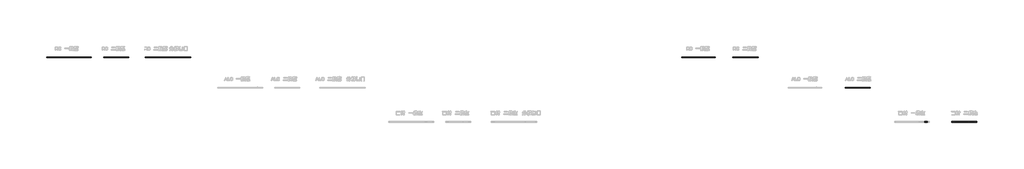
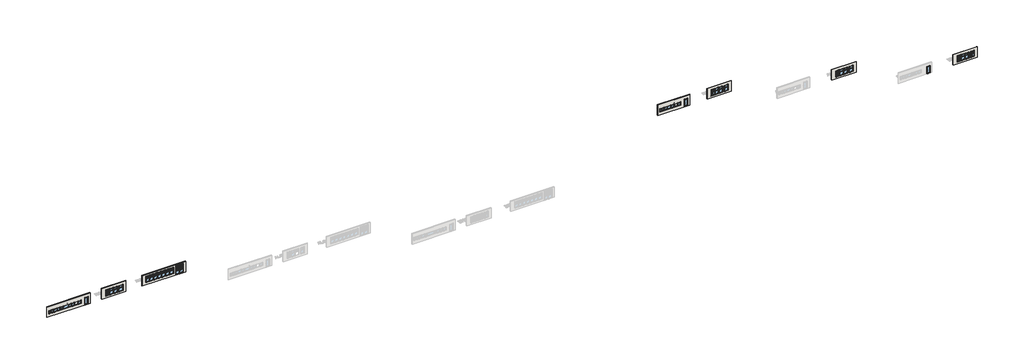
# One storey, part 2 of 9: 37 windows, 7 walls.
"""IFC4 building model written with IfcOpenShell, lengths in millimetres."""

from ifc_helpers import new_model, si_unit, origin, place, context, project, spatial, faceted_brep, transform, mapped, element, save
from components import window_5b862731, window_7b8d6bdb, window_a65863e0, window_94f88ecb, window_d8e5e20b, window_982928b0, window_b47a5142, window_3286e7ac, window_d3e49d5a, window_af76bd46, window_1546418c, window_f49ae977, window_b31afdd3, window_89d6bdb9, window_9f553484, window_d4c82e34, window_3b290d56, window_d672795f, window_f1f49c0d, window_07d2fa6b, window_97257845, window_000c6770, window_9ac953a6, window_cb9461ae, window_9ecc36ba, window_6179c8a8, window_815922b5, window_1165047f, window_eaa06fa6, fix_e6d95c7c, fix_dac33f9e, fix_fix_834ad85f, fix_fix_8fd30978, fix_fix_5153bf73, fix_fix_febf87ab, fix_fix_aadb638c

model = new_model("IFC4")

# Units and contexts
model_context = context("Model", 3, world=origin())
ifc_project = project(units=[si_unit("LENGTHUNIT", "METRE", prefix="MILLI")], contexts=[model_context])

# Site, building, storey
site = spatial("IfcSite", under=ifc_project)
building = spatial("IfcBuilding", under=site)
storey = spatial("IfcBuildingStorey", under=building, Name="レベル 1", Elevation=0.0)

# Walls
placement = place(None, origin())
element("IfcWall", 1, ObjectType="一般 - 200 mm", at=placement, inside=storey, context=model_context, shape_type="Brep", body=[
    faceted_brep([(-7090.5476315, 204.7315319, 0.0), (4709.4523685, 204.7315319, 0.0), (4709.4523685, 204.7315319, 3000.0), (-7090.5476315, 204.7315319, 3000.0), (2284.4523685, 204.7315319, 1725.0), (2284.4523685, 204.7315319, 875.0), (-6565.5476315, 204.7315319, 875.0), (-6565.5476315, 204.7315319, 1725.0), (3204.4523685, 204.7315319, 2125.0), (4154.4523685, 204.7315319, 2125.0), (4154.4523685, 204.7315319, 75.0), (3204.4523685, 204.7315319, 75.0), (4709.4523685, 404.7315319, 0.0), (-7090.5476315, 404.7315319, 0.0), (-7090.5476315, 404.7315319, 3000.0), (4709.4523685, 404.7315319, 3000.0), (2274.4523685, 404.7315319, 804.0), (2274.4523685, 404.7315319, 1720.0), (-6555.5476315, 404.7315319, 1720.0), (-6555.5476315, 404.7315319, 804.0), (3214.4523685, 404.7315319, 4.0), (4144.4523685, 404.7315319, 4.0), (4144.4523685, 404.7315319, 2120.0), (3214.4523685, 404.7315319, 2120.0), (2284.4523685, 259.7315319, 1725.0), (-6565.5476315, 259.7315319, 1725.0), (2284.4523685, 259.7315319, 875.0), (-6565.5476315, 259.7315319, 875.0), (2284.4523685, 359.7315319, 1755.0), (2284.4523685, 259.7315319, 1755.0), (-6565.5476315, 259.7315319, 1755.0), (-6565.5476315, 359.7315319, 1755.0), (2284.4523685, 259.7315319, 804.0), (2284.4523685, 359.7315319, 804.0), (2274.4523685, 359.7315319, 804.0), (-6555.5476315, 359.7315319, 804.0), (-6565.5476315, 359.7315319, 804.0), (-6565.5476315, 259.7315319, 804.0), (-6555.5476315, 359.7315319, 1720.0), (2274.4523685, 359.7315319, 1720.0), (3204.4523685, 259.7315319, 2125.0), (4154.4523685, 259.7315319, 2125.0), (4154.4523685, 259.7315319, 75.0), (3204.4523685, 259.7315319, 75.0), (3204.4523685, 259.7315319, 4.0), (3204.4523685, 359.7315319, 4.0), (3204.4523685, 359.7315319, 2155.0), (3204.4523685, 259.7315319, 2155.0), (4154.4523685, 259.7315319, 2155.0), (4154.4523685, 359.7315319, 2155.0), (4154.4523685, 359.7315319, 4.0), (4154.4523685, 259.7315319, 4.0), (4144.4523685, 359.7315319, 4.0), (3214.4523685, 359.7315319, 4.0), (3214.4523685, 359.7315319, 2120.0), (4144.4523685, 359.7315319, 2120.0)], [[[0, 1, 2, 3], [4, 5, 6, 7], [8, 9, 10, 11]], [[12, 13, 14, 15], [16, 17, 18, 19], [20, 21, 22, 23]], [[1, 0, 13, 12]], [[2, 1, 12, 15]], [[3, 2, 15, 14]], [[0, 3, 14, 13]], [[24, 4, 7, 25]], [[5, 26, 27, 6]], [[28, 29, 30, 31]], [[32, 33, 34, 16, 19, 35, 36, 37]], [[33, 28, 31, 36, 35, 38, 39, 34]], [[29, 24, 25, 30]], [[26, 32, 37, 27]], [[17, 39, 38, 18]], [[24, 29, 28, 33, 32, 26, 5, 4]], [[16, 34, 39, 17]], [[27, 37, 36, 31, 30, 25, 7, 6]], [[35, 19, 18, 38]], [[40, 41, 9, 8]], [[42, 43, 11, 10]], [[43, 44, 45, 46, 47, 40, 8, 11]], [[41, 48, 49, 50, 51, 42, 10, 9]], [[47, 46, 49, 48]], [[45, 44, 51, 50, 52, 21, 20, 53]], [[46, 45, 53, 54, 55, 52, 50, 49]], [[41, 40, 47, 48]], [[43, 42, 51, 44]], [[55, 54, 23, 22]], [[53, 20, 23, 54]], [[21, 52, 55, 22]]]),
])
element("IfcWall", 2, ObjectType="一般 - 200 mm", at=placement, inside=storey, context=model_context, shape_type="Brep", body=[
    faceted_brep([(7909.4523685, 204.7315319, 0.0), (14509.4523685, 204.7315319, 0.0), (14509.4523685, 204.7315319, 3000.0), (7909.4523685, 204.7315319, 3000.0), (12544.4523685, 204.7315319, 2325.0), (13794.4523685, 204.7315319, 2325.0), (13794.4523685, 204.7315319, 575.0), (12544.4523685, 204.7315319, 575.0), (12194.4523685, 204.7315319, 575.0), (8984.4523685, 204.7315319, 575.0), (8984.4523685, 204.7315319, 2325.0), (12194.4523685, 204.7315319, 2325.0), (14509.4523685, 404.7315319, 0.0), (7909.4523685, 404.7315319, 0.0), (7909.4523685, 404.7315319, 3000.0), (14509.4523685, 404.7315319, 3000.0), (12554.4523685, 404.7315319, 504.0), (13784.4523685, 404.7315319, 504.0), (13784.4523685, 404.7315319, 2320.0), (12554.4523685, 404.7315319, 2320.0), (8994.4523685, 404.7315319, 504.0), (12184.4523685, 404.7315319, 504.0), (12184.4523685, 404.7315319, 2320.0), (8994.4523685, 404.7315319, 2320.0), (8984.4523685, 259.7315319, 2325.0), (12194.4523685, 259.7315319, 2325.0), (8984.4523685, 259.7315319, 575.0), (12194.4523685, 259.7315319, 575.0), (8984.4523685, 259.7315319, 504.0), (8984.4523685, 359.7315319, 504.0), (8984.4523685, 359.7315319, 2355.0), (8984.4523685, 259.7315319, 2355.0), (12194.4523685, 359.7315319, 2355.0), (12194.4523685, 259.7315319, 2355.0), (12194.4523685, 259.7315319, 504.0), (12194.4523685, 359.7315319, 504.0), (12184.4523685, 359.7315319, 504.0), (8994.4523685, 359.7315319, 504.0), (8994.4523685, 359.7315319, 2320.0), (12184.4523685, 359.7315319, 2320.0), (13794.4523685, 259.7315319, 2325.0), (12544.4523685, 259.7315319, 2325.0), (12544.4523685, 259.7315319, 575.0), (13794.4523685, 259.7315319, 575.0), (12544.4523685, 259.7315319, 504.0), (12544.4523685, 359.7315319, 504.0), (12544.4523685, 359.7315319, 2355.0), (12544.4523685, 259.7315319, 2355.0), (13794.4523685, 259.7315319, 2355.0), (13794.4523685, 359.7315319, 2355.0), (13794.4523685, 359.7315319, 504.0), (13794.4523685, 259.7315319, 504.0), (13784.4523685, 359.7315319, 504.0), (12554.4523685, 359.7315319, 504.0), (12554.4523685, 359.7315319, 2320.0), (13784.4523685, 359.7315319, 2320.0)], [[[0, 1, 2, 3], [4, 5, 6, 7], [8, 9, 10, 11]], [[12, 13, 14, 15], [16, 17, 18, 19], [20, 21, 22, 23]], [[1, 0, 13, 12]], [[2, 1, 12, 15]], [[3, 2, 15, 14]], [[0, 3, 14, 13]], [[10, 24, 25, 11]], [[26, 9, 8, 27]], [[24, 10, 9, 26, 28, 29, 30, 31]], [[31, 30, 32, 33]], [[29, 28, 34, 35, 36, 21, 20, 37]], [[34, 28, 26, 27]], [[25, 24, 31, 33]], [[32, 30, 29, 37, 38, 39, 36, 35]], [[37, 20, 23, 38]], [[39, 38, 23, 22]], [[25, 33, 32, 35, 34, 27, 8, 11]], [[39, 22, 21, 36]], [[40, 5, 4, 41]], [[42, 7, 6, 43]], [[41, 4, 7, 42, 44, 45, 46, 47]], [[5, 40, 48, 49, 50, 51, 43, 6]], [[49, 48, 47, 46]], [[45, 44, 51, 50, 52, 17, 16, 53]], [[47, 48, 40, 41]], [[51, 44, 42, 43]], [[49, 46, 45, 53, 54, 55, 52, 50]], [[18, 55, 54, 19]], [[19, 54, 53, 16]], [[55, 18, 17, 52]]]),
])
element("IfcWall", 3, ObjectType="一般 - 200 mm", at=placement, inside=storey, context=model_context, shape_type="Brep", body=[
    faceted_brep([(18909.4523685, 204.7315319, 0.0), (30809.4523685, 204.7315319, 0.0), (30809.4523685, 204.7315319, 3000.0), (18909.4523685, 204.7315319, 3000.0), (30234.4523685, 204.7315319, 2625.0), (30234.4523685, 204.7315319, 75.0), (28104.4523685, 204.7315319, 75.0), (28104.4523685, 204.7315319, 2625.0), (27514.4523685, 204.7315319, 665.0), (19984.4523685, 204.7315319, 665.0), (19984.4523685, 204.7315319, 2425.0), (27514.4523685, 204.7315319, 2425.0), (30809.4523685, 404.7315319, 0.0), (18909.4523685, 404.7315319, 0.0), (18909.4523685, 404.7315319, 3000.0), (30809.4523685, 404.7315319, 3000.0), (30224.4523685, 404.7315319, 4.0), (30224.4523685, 404.7315319, 2620.0), (28114.4523685, 404.7315319, 2620.0), (28114.4523685, 404.7315319, 4.0), (19994.4523685, 404.7315319, 594.0), (27504.4523685, 404.7315319, 594.0), (27504.4523685, 404.7315319, 2420.0), (19994.4523685, 404.7315319, 2420.0), (19984.4523685, 259.7315319, 2425.0), (27514.4523685, 259.7315319, 2425.0), (19984.4523685, 259.7315319, 665.0), (27514.4523685, 259.7315319, 665.0), (19984.4523685, 259.7315319, 594.0), (19984.4523685, 359.7315319, 594.0), (19984.4523685, 359.7315319, 2455.0), (19984.4523685, 259.7315319, 2455.0), (27514.4523685, 359.7315319, 2455.0), (27514.4523685, 259.7315319, 2455.0), (27514.4523685, 259.7315319, 594.0), (27514.4523685, 359.7315319, 594.0), (27504.4523685, 359.7315319, 594.0), (19994.4523685, 359.7315319, 594.0), (19994.4523685, 359.7315319, 2420.0), (27504.4523685, 359.7315319, 2420.0), (30234.4523685, 259.7315319, 2625.0), (28104.4523685, 259.7315319, 2625.0), (30234.4523685, 259.7315319, 75.0), (28104.4523685, 259.7315319, 75.0), (30234.4523685, 259.7315319, 2655.0), (30234.4523685, 359.7315319, 2655.0), (30234.4523685, 359.7315319, 4.0), (30234.4523685, 259.7315319, 4.0), (28104.4523685, 259.7315319, 2655.0), (28104.4523685, 359.7315319, 2655.0), (30224.4523685, 359.7315319, 4.0), (28114.4523685, 359.7315319, 4.0), (28104.4523685, 359.7315319, 4.0), (28104.4523685, 259.7315319, 4.0), (28114.4523685, 359.7315319, 2620.0), (30224.4523685, 359.7315319, 2620.0)], [[[0, 1, 2, 3], [4, 5, 6, 7], [8, 9, 10, 11]], [[12, 13, 14, 15], [16, 17, 18, 19], [20, 21, 22, 23]], [[1, 0, 13, 12]], [[2, 1, 12, 15]], [[3, 2, 15, 14]], [[0, 3, 14, 13]], [[10, 24, 25, 11]], [[26, 9, 8, 27]], [[24, 10, 9, 26, 28, 29, 30, 31]], [[31, 30, 32, 33]], [[29, 28, 34, 35, 36, 21, 20, 37]], [[34, 28, 26, 27]], [[25, 24, 31, 33]], [[32, 30, 29, 37, 38, 39, 36, 35]], [[37, 20, 23, 38]], [[39, 38, 23, 22]], [[40, 4, 7, 41]], [[5, 42, 43, 6]], [[40, 44, 45, 46, 47, 42, 5, 4]], [[45, 44, 48, 49]], [[47, 46, 50, 16, 19, 51, 52, 53]], [[46, 45, 49, 52, 51, 54, 55, 50]], [[44, 40, 41, 48]], [[42, 47, 53, 43]], [[17, 55, 54, 18]], [[16, 50, 55, 17]], [[43, 53, 52, 49, 48, 41, 7, 6]], [[51, 19, 18, 54]], [[25, 33, 32, 35, 34, 27, 8, 11]], [[21, 36, 39, 22]]]),
])
element("IfcWall", 4, ObjectType="一般 - 200 mm", at=placement, inside=storey, context=model_context, shape_type="Brep", body=[
    faceted_brep([(159909.4523685, 204.7315319, 0.0), (168709.4523685, 204.7315319, 0.0), (168709.4523685, 204.7315319, 3000.0), (159909.4523685, 204.7315319, 3000.0), (160434.4523685, 204.7315319, 875.0), (160434.4523685, 204.7315319, 1725.0), (166204.4523685, 204.7315319, 1725.0), (166204.4523685, 204.7315319, 875.0), (167204.4523685, 204.7315319, 2125.0), (168154.4523685, 204.7315319, 2125.0), (168154.4523685, 204.7315319, 75.0), (167204.4523685, 204.7315319, 75.0), (168709.4523685, 404.7315319, 0.0), (159909.4523685, 404.7315319, 0.0), (159909.4523685, 404.7315319, 3000.0), (168709.4523685, 404.7315319, 3000.0), (160444.4523685, 404.7315319, 1720.0), (160444.4523685, 404.7315319, 804.0), (166194.4523685, 404.7315319, 804.0), (166194.4523685, 404.7315319, 1720.0), (167214.4523685, 404.7315319, 4.0), (168144.4523685, 404.7315319, 4.0), (168144.4523685, 404.7315319, 2120.0), (167214.4523685, 404.7315319, 2120.0), (160434.4523685, 259.7315319, 1725.0), (166204.4523685, 259.7315319, 1725.0), (160434.4523685, 259.7315319, 875.0), (166204.4523685, 259.7315319, 875.0), (160434.4523685, 259.7315319, 1755.0), (160434.4523685, 259.7315319, 804.0), (160434.4523685, 359.7315319, 804.0), (160434.4523685, 359.7315319, 1755.0), (166204.4523685, 359.7315319, 1755.0), (166204.4523685, 259.7315319, 1755.0), (166204.4523685, 259.7315319, 804.0), (166204.4523685, 359.7315319, 804.0), (166194.4523685, 359.7315319, 804.0), (160444.4523685, 359.7315319, 804.0), (160444.4523685, 359.7315319, 1720.0), (166194.4523685, 359.7315319, 1720.0), (167204.4523685, 259.7315319, 2125.0), (168154.4523685, 259.7315319, 2125.0), (168154.4523685, 259.7315319, 75.0), (167204.4523685, 259.7315319, 75.0), (167204.4523685, 259.7315319, 4.0), (167204.4523685, 359.7315319, 4.0), (167204.4523685, 359.7315319, 2155.0), (167204.4523685, 259.7315319, 2155.0), (168154.4523685, 259.7315319, 2155.0), (168154.4523685, 359.7315319, 2155.0), (168154.4523685, 359.7315319, 4.0), (168154.4523685, 259.7315319, 4.0), (168144.4523685, 359.7315319, 4.0), (167214.4523685, 359.7315319, 4.0), (167214.4523685, 359.7315319, 2120.0), (168144.4523685, 359.7315319, 2120.0)], [[[0, 1, 2, 3], [4, 5, 6, 7], [8, 9, 10, 11]], [[12, 13, 14, 15], [16, 17, 18, 19], [20, 21, 22, 23]], [[1, 0, 13, 12]], [[2, 1, 12, 15]], [[3, 2, 15, 14]], [[0, 3, 14, 13]], [[5, 24, 25, 6]], [[26, 4, 7, 27]], [[28, 24, 5, 4, 26, 29, 30, 31]], [[28, 31, 32, 33]], [[30, 29, 34, 35, 36, 18, 17, 37]], [[37, 38, 39, 36, 35, 32, 31, 30]], [[24, 28, 33, 25]], [[29, 26, 27, 34]], [[38, 16, 19, 39]], [[38, 37, 17, 16]], [[25, 33, 32, 35, 34, 27, 7, 6]], [[39, 19, 18, 36]], [[40, 41, 9, 8]], [[42, 43, 11, 10]], [[43, 44, 45, 46, 47, 40, 8, 11]], [[41, 48, 49, 50, 51, 42, 10, 9]], [[47, 46, 49, 48]], [[45, 44, 51, 50, 52, 21, 20, 53]], [[46, 45, 53, 54, 55, 52, 50, 49]], [[41, 40, 47, 48]], [[43, 42, 51, 44]], [[55, 54, 23, 22]], [[53, 20, 23, 54]], [[21, 52, 55, 22]]]),
])
element("IfcWall", 5, ObjectType="一般 - 200 mm", at=placement, inside=storey, context=model_context, shape_type="Brep", body=[
    faceted_brep([(173409.4523685, 204.7315319, 0.0), (180009.4523685, 204.7315319, 0.0), (180009.4523685, 204.7315319, 3000.0), (173409.4523685, 204.7315319, 3000.0), (178144.4523685, 204.7315319, 2325.0), (179194.4523685, 204.7315319, 2325.0), (179194.4523685, 204.7315319, 575.0), (178144.4523685, 204.7315319, 575.0), (177694.4523685, 204.7315319, 575.0), (174484.4523685, 204.7315319, 575.0), (174484.4523685, 204.7315319, 2325.0), (177694.4523685, 204.7315319, 2325.0), (180009.4523685, 404.7315319, 0.0), (173409.4523685, 404.7315319, 0.0), (173409.4523685, 404.7315319, 3000.0), (180009.4523685, 404.7315319, 3000.0), (178154.4523685, 404.7315319, 504.0), (179184.4523685, 404.7315319, 504.0), (179184.4523685, 404.7315319, 2320.0), (178154.4523685, 404.7315319, 2320.0), (174494.4523685, 404.7315319, 504.0), (177684.4523685, 404.7315319, 504.0), (177684.4523685, 404.7315319, 2320.0), (174494.4523685, 404.7315319, 2320.0), (179194.4523685, 259.7315319, 2325.0), (178144.4523685, 259.7315319, 2325.0), (178144.4523685, 259.7315319, 575.0), (179194.4523685, 259.7315319, 575.0), (178144.4523685, 259.7315319, 504.0), (178144.4523685, 359.7315319, 504.0), (178144.4523685, 359.7315319, 2355.0), (178144.4523685, 259.7315319, 2355.0), (179194.4523685, 259.7315319, 2355.0), (179194.4523685, 359.7315319, 2355.0), (179194.4523685, 359.7315319, 504.0), (179194.4523685, 259.7315319, 504.0), (179184.4523685, 359.7315319, 504.0), (178154.4523685, 359.7315319, 504.0), (178154.4523685, 359.7315319, 2320.0), (179184.4523685, 359.7315319, 2320.0), (174484.4523685, 259.7315319, 2325.0), (177694.4523685, 259.7315319, 2325.0), (174484.4523685, 259.7315319, 575.0), (177694.4523685, 259.7315319, 575.0), (174484.4523685, 259.7315319, 504.0), (174484.4523685, 359.7315319, 504.0), (174484.4523685, 359.7315319, 2355.0), (174484.4523685, 259.7315319, 2355.0), (177694.4523685, 359.7315319, 2355.0), (177694.4523685, 259.7315319, 2355.0), (177694.4523685, 259.7315319, 504.0), (177694.4523685, 359.7315319, 504.0), (177684.4523685, 359.7315319, 504.0), (174494.4523685, 359.7315319, 504.0), (174494.4523685, 359.7315319, 2320.0), (177684.4523685, 359.7315319, 2320.0)], [[[0, 1, 2, 3], [4, 5, 6, 7], [8, 9, 10, 11]], [[12, 13, 14, 15], [16, 17, 18, 19], [20, 21, 22, 23]], [[1, 0, 13, 12]], [[2, 1, 12, 15]], [[3, 2, 15, 14]], [[0, 3, 14, 13]], [[24, 5, 4, 25]], [[26, 7, 6, 27]], [[25, 4, 7, 26, 28, 29, 30, 31]], [[5, 24, 32, 33, 34, 35, 27, 6]], [[33, 32, 31, 30]], [[29, 28, 35, 34, 36, 17, 16, 37]], [[31, 32, 24, 25]], [[35, 28, 26, 27]], [[33, 30, 29, 37, 38, 39, 36, 34]], [[18, 39, 38, 19]], [[19, 38, 37, 16]], [[39, 18, 17, 36]], [[10, 40, 41, 11]], [[42, 9, 8, 43]], [[42, 44, 45, 46, 47, 40, 10, 9]], [[47, 46, 48, 49]], [[45, 44, 50, 51, 52, 21, 20, 53]], [[48, 46, 45, 53, 54, 55, 52, 51]], [[50, 44, 42, 43]], [[41, 40, 47, 49]], [[55, 54, 23, 22]], [[53, 20, 23, 54]], [[41, 49, 48, 51, 50, 43, 8, 11]], [[55, 22, 21, 52]]]),
])
element("IfcWall", 6, ObjectType="一般 - 200 mm", at=placement, inside=storey, context=model_context, shape_type="Brep", body=[
    faceted_brep([(202909.4523685, -7795.2684681, 0.0), (209509.4523685, -7795.2684681, 0.0), (209509.4523685, -7795.2684681, 3000.0), (202909.4523685, -7795.2684681, 3000.0), (207644.4523685, -7795.2684681, 2325.0), (208694.4523685, -7795.2684681, 2325.0), (208694.4523685, -7795.2684681, 575.0), (207644.4523685, -7795.2684681, 575.0), (207194.4523685, -7795.2684681, 575.0), (203984.4523685, -7795.2684681, 575.0), (203984.4523685, -7795.2684681, 2325.0), (207194.4523685, -7795.2684681, 2325.0), (209509.4523685, -7595.2684681, 0.0), (202909.4523685, -7595.2684681, 0.0), (202909.4523685, -7595.2684681, 3000.0), (209509.4523685, -7595.2684681, 3000.0), (208719.4523685, -7595.2684681, 2360.0), (207619.4523685, -7595.2684681, 2360.0), (207619.4523685, -7595.2684681, 520.0), (208719.4523685, -7595.2684681, 520.0), (207219.4523685, -7595.2684681, 2360.0), (203959.4523685, -7595.2684681, 2360.0), (203959.4523685, -7595.2684681, 520.0), (207219.4523685, -7595.2684681, 520.0), (208694.4523685, -7705.2684681, 2325.0), (207644.4523685, -7705.2684681, 2325.0), (207644.4523685, -7705.2684681, 575.0), (208694.4523685, -7705.2684681, 575.0), (208719.4523685, -7705.2684681, 2360.0), (207619.4523685, -7705.2684681, 2360.0), (207619.4523685, -7705.2684681, 520.0), (208719.4523685, -7705.2684681, 520.0), (203984.4523685, -7705.2684681, 2325.0), (207194.4523685, -7705.2684681, 2325.0), (203984.4523685, -7705.2684681, 575.0), (207194.4523685, -7705.2684681, 575.0), (203959.4523685, -7705.2684681, 2360.0), (207219.4523685, -7705.2684681, 2360.0), (203959.4523685, -7705.2684681, 520.0), (207219.4523685, -7705.2684681, 520.0)], [[[0, 1, 2, 3], [4, 5, 6, 7], [8, 9, 10, 11]], [[12, 13, 14, 15], [16, 17, 18, 19], [20, 21, 22, 23]], [[1, 0, 13, 12]], [[2, 1, 12, 15]], [[3, 2, 15, 14]], [[0, 3, 14, 13]], [[24, 5, 4, 25]], [[26, 7, 6, 27]], [[25, 4, 7, 26]], [[5, 24, 27, 6]], [[16, 28, 29, 17]], [[18, 30, 31, 19]], [[29, 28, 31, 30], [24, 25, 26, 27]], [[17, 29, 30, 18]], [[28, 16, 19, 31]], [[10, 32, 33, 11]], [[34, 9, 8, 35]], [[34, 32, 10, 9]], [[36, 21, 20, 37]], [[22, 38, 39, 23]], [[36, 37, 39, 38], [33, 32, 34, 35]], [[21, 36, 38, 22]], [[33, 35, 8, 11]], [[37, 20, 23, 39]]]),
])
element("IfcWall", 7, ObjectType="一般 - 200 mm", at=placement, inside=storey, context=model_context, shape_type="Brep", body=[
    faceted_brep([(230909.4523685, -16795.2684681, 0.0), (237509.4523685, -16795.2684681, 0.0), (237509.4523685, -16795.2684681, 3000.0), (230909.4523685, -16795.2684681, 3000.0), (235644.4523685, -16795.2684681, 2325.0), (236694.4523685, -16795.2684681, 2325.0), (236694.4523685, -16795.2684681, 575.0), (235644.4523685, -16795.2684681, 575.0), (235194.4523685, -16795.2684681, 575.0), (231984.4523685, -16795.2684681, 575.0), (231984.4523685, -16795.2684681, 2325.0), (235194.4523685, -16795.2684681, 2325.0), (237509.4523685, -16595.2684681, 0.0), (230909.4523685, -16595.2684681, 0.0), (230909.4523685, -16595.2684681, 3000.0), (237509.4523685, -16595.2684681, 3000.0), (235219.4523685, -16595.2684681, 2355.0), (231959.4523685, -16595.2684681, 2355.0), (231959.4523685, -16595.2684681, 520.0), (235219.4523685, -16595.2684681, 520.0), (236719.4523685, -16595.2684681, 2355.0), (235619.4523685, -16595.2684681, 2355.0), (235619.4523685, -16595.2684681, 520.0), (236719.4523685, -16595.2684681, 520.0), (231984.4523685, -16685.2684681, 2325.0), (235194.4523685, -16685.2684681, 2325.0), (231984.4523685, -16685.2684681, 575.0), (235194.4523685, -16685.2684681, 575.0), (231959.4523685, -16685.2684681, 2355.0), (235219.4523685, -16685.2684681, 2355.0), (231959.4523685, -16685.2684681, 520.0), (235219.4523685, -16685.2684681, 520.0), (236694.4523685, -16685.2684681, 2325.0), (235644.4523685, -16685.2684681, 2325.0), (235644.4523685, -16685.2684681, 575.0), (236694.4523685, -16685.2684681, 575.0), (236719.4523685, -16685.2684681, 2355.0), (235619.4523685, -16685.2684681, 2355.0), (235619.4523685, -16685.2684681, 520.0), (236719.4523685, -16685.2684681, 520.0)], [[[0, 1, 2, 3], [4, 5, 6, 7], [8, 9, 10, 11]], [[12, 13, 14, 15], [16, 17, 18, 19], [20, 21, 22, 23]], [[1, 0, 13, 12]], [[2, 1, 12, 15]], [[3, 2, 15, 14]], [[0, 3, 14, 13]], [[10, 24, 25, 11]], [[26, 9, 8, 27]], [[24, 10, 9, 26]], [[28, 17, 16, 29]], [[18, 30, 31, 19]], [[28, 29, 31, 30], [26, 27, 25, 24]], [[32, 5, 4, 33]], [[34, 7, 6, 35]], [[33, 4, 7, 34]], [[5, 32, 35, 6]], [[20, 36, 37, 21]], [[22, 38, 39, 23]], [[37, 36, 39, 38], [32, 33, 34, 35]], [[30, 18, 17, 28]], [[21, 37, 38, 22]], [[36, 20, 23, 39]], [[25, 27, 8, 11]], [[29, 16, 19, 31]]]),
])

# Windows
window_shape = window_5b862731(model_context)
element("IfcWindow", 8, ObjectType="FNSⅡ100R_非防火_RC枠_単窓 : 隠蔽突出排煙", at=placement, inside=storey, context=model_context, shape_type="MappedRepresentation", body=[
    mapped(window_shape, transform((1859.4523685, 304.7315319, 0.0), x_axis=(1.0, 0.0, 0.0), y_axis=(0.0, 1.0, 0.0), z_axis=(0.0, 0.0, 1.0))),
])
window_2_shape = window_7b8d6bdb(model_context)
element("IfcWindow", 9, ObjectType="FNSⅡ100R_非防火_RC枠_単窓 : 引違", at=placement, inside=storey, context=model_context, shape_type="MappedRepresentation", body=[
    mapped(window_2_shape, transform((-5940.5476315, 304.7315319, 0.0), x_axis=(1.0, 0.0, 0.0), y_axis=(0.0, 1.0, 0.0), z_axis=(0.0, 0.0, 1.0))),
])
window_3_shape = window_a65863e0(model_context)
element("IfcWindow", 10, ObjectType="FNSⅡ100R_非防火_RC枠_単窓 : 両袖片引", at=placement, inside=storey, context=model_context, shape_type="MappedRepresentation", body=[
    mapped(window_3_shape, transform((-1880.5476315, 304.7315319, 0.0), x_axis=(1.0, 0.0, 0.0), y_axis=(0.0, 1.0, 0.0), z_axis=(0.0, 0.0, 1.0))),
])
window_4_shape = window_94f88ecb(model_context)
element("IfcWindow", 11, ObjectType="FNSⅡ100R_非防火_RC枠_単窓 : 外動片引", at=placement, inside=storey, context=model_context, shape_type="MappedRepresentation", body=[
    mapped(window_4_shape, transform((-4360.5476315, 304.7315319, 0.0), x_axis=(1.0, 0.0, 0.0), y_axis=(0.0, 1.0, 0.0), z_axis=(0.0, 0.0, 1.0))),
])
window_5_shape = window_d8e5e20b(model_context)
element("IfcWindow", 12, ObjectType="FNSⅡ100R_非防火_RC枠_単窓 : 片開き框ドア", at=placement, inside=storey, context=model_context, shape_type="MappedRepresentation", body=[
    mapped(window_5_shape, transform((3679.4523685, 304.7315319, -800.0), x_axis=(1.0, 0.0, 0.0), y_axis=(0.0, 1.0, 0.0), z_axis=(0.0, 0.0, 1.0))),
])
window_6_shape = window_982928b0(model_context)
element("IfcWindow", 13, ObjectType="FNSⅡ100R_非防火_RC枠_段窓 : 引違/引違", at=placement, inside=storey, context=model_context, shape_type="MappedRepresentation", body=[
    mapped(window_6_shape, transform((9509.4523685, 304.7315319, -300.0), x_axis=(1.0, 0.0, 0.0), y_axis=(0.0, 1.0, 0.0), z_axis=(0.0, 0.0, 1.0))),
])
window_7_shape = window_b47a5142(model_context)
element("IfcWindow", 14, ObjectType="FNSⅡ100R_非防火_RC枠_段窓 : たてすべりだし/FIX", at=placement, inside=storey, context=model_context, shape_type="MappedRepresentation", body=[
    mapped(window_7_shape, transform((11669.4523685, 304.7315319, -300.0), x_axis=(1.0, 0.0, 0.0), y_axis=(0.0, 1.0, 0.0), z_axis=(0.0, 0.0, 1.0))),
])
window_8_shape = window_3286e7ac(model_context)
element("IfcWindow", 15, ObjectType="FNSⅡ100R_非防火_RC枠_段窓 : FIX/FIX_単", at=placement, inside=storey, context=model_context, shape_type="MappedRepresentation", body=[
    mapped(window_8_shape, transform((13169.4523685, 304.7315319, -300.0), x_axis=(1.0, 0.0, 0.0), y_axis=(0.0, 1.0, 0.0), z_axis=(0.0, 0.0, 1.0))),
])
window_9_shape = window_d3e49d5a(model_context)
element("IfcWindow", 16, ObjectType="FNSⅡ100R_非防火_RC枠_段窓_分解無目 : 引違/引違", at=placement, inside=storey, context=model_context, shape_type="MappedRepresentation", body=[
    mapped(window_9_shape, transform((20509.4523685, 304.7315319, -210.0), x_axis=(1.0, 0.0, 0.0), y_axis=(0.0, 1.0, 0.0), z_axis=(0.0, 0.0, 1.0))),
])
window_10_shape = window_af76bd46(model_context)
element("IfcWindow", 17, ObjectType="FNSⅡ100R_非防火_RC枠_段窓_分解無目 : 隠蔽突出排煙/框ドア", at=placement, inside=storey, context=model_context, shape_type="MappedRepresentation", body=[
    mapped(window_10_shape, transform((29709.4523685, 304.7315319, -800.0), x_axis=(1.0, 0.0, 0.0), y_axis=(0.0, 1.0, 0.0), z_axis=(0.0, 0.0, 1.0))),
])
window_11_shape = window_1546418c(model_context)
element("IfcWindow", 18, ObjectType="FNSⅡ100R_非防火_RC枠_段窓_分解無目 : FIX/框ドア", at=placement, inside=storey, context=model_context, shape_type="MappedRepresentation", body=[
    mapped(window_11_shape, transform((28629.4523685, 304.7315319, -800.0), x_axis=(1.0, 0.0, 0.0), y_axis=(0.0, 1.0, 0.0), z_axis=(0.0, 0.0, 1.0))),
])
window_12_shape = window_f49ae977(model_context)
element("IfcWindow", 19, ObjectType="FNSⅡ100R_非防火_RC枠_段窓_分解無目 : たてすべりだし/FIX", at=placement, inside=storey, context=model_context, shape_type="MappedRepresentation", body=[
    mapped(window_12_shape, transform((25909.4523685, 304.7315319, -210.0), x_axis=(1.0, 0.0, 0.0), y_axis=(0.0, 1.0, 0.0), z_axis=(0.0, 0.0, 1.0))),
])
window_13_shape = window_b31afdd3(model_context)
element("IfcWindow", 20, ObjectType="FNSⅡ100R_非防火_RC枠_段窓_分解無目 : 隠蔽突出排煙/FIX", at=placement, inside=storey, context=model_context, shape_type="MappedRepresentation", body=[
    mapped(window_13_shape, transform((26989.4523685, 304.7315319, -210.0), x_axis=(1.0, 0.0, 0.0), y_axis=(0.0, 1.0, 0.0), z_axis=(0.0, 0.0, 1.0))),
])
window_14_shape = window_89d6bdb9(model_context)
element("IfcWindow", 21, ObjectType="FNSⅡ100R_非防火_RC枠_段窓_分解無目 : 引違/FIX", at=placement, inside=storey, context=model_context, shape_type="MappedRepresentation", body=[
    mapped(window_14_shape, transform((23749.4523685, 304.7315319, -210.0), x_axis=(1.0, 0.0, 0.0), y_axis=(0.0, 1.0, 0.0), z_axis=(0.0, 0.0, 1.0))),
])
window_15_shape = window_9f553484(model_context)
element("IfcWindow", 22, ObjectType="FNSⅡ100R_非防火_RC枠_段窓_分解無目 : 隠蔽式突出排煙/引違", at=placement, inside=storey, context=model_context, shape_type="MappedRepresentation", body=[
    mapped(window_15_shape, transform((22669.4523685, 304.7315319, -210.0), x_axis=(1.0, 0.0, 0.0), y_axis=(0.0, 1.0, 0.0), z_axis=(0.0, 0.0, 1.0))),
])
window_16_shape = window_d4c82e34(model_context)
element("IfcWindow", 23, ObjectType="FNSⅡ100R_非防火_RC枠_段窓_分解無目 : FIX/引違", at=placement, inside=storey, context=model_context, shape_type="MappedRepresentation", body=[
    mapped(window_16_shape, transform((21589.4523685, 304.7315319, -210.0), x_axis=(1.0, 0.0, 0.0), y_axis=(0.0, 1.0, 0.0), z_axis=(0.0, 0.0, 1.0))),
])
window_17_shape = window_3b290d56(model_context)
element("IfcWindow", 24, ObjectType="FNSⅡ100R_非防火_面付枠_段窓 : FIX/FIX 単", at=placement, inside=storey, context=model_context, shape_type="MappedRepresentation", body=[
    mapped(window_17_shape, transform((236169.4523685, -16695.2684681, -300.0), x_axis=(1.0, 0.0, 0.0), y_axis=(0.0, 1.0, 0.0), z_axis=(0.0, 0.0, 1.0))),
])
window_18_shape = window_d672795f(model_context)
element("IfcWindow", 25, ObjectType="FNSⅡ100R_個別防火_面付枠_段窓 : 引違/引違", at=placement, inside=storey, context=model_context, shape_type="MappedRepresentation", body=[
    mapped(window_18_shape, transform((232509.4523685, -16695.2684681, -300.0), x_axis=(1.0, 0.0, 0.0), y_axis=(0.0, 1.0, 0.0), z_axis=(0.0, 0.0, 1.0))),
])
window_19_shape = window_f1f49c0d(model_context)
element("IfcWindow", 26, ObjectType="FNSⅡ100R_個別防火_面付枠_段窓 : たてすべりだし/FIX", at=placement, inside=storey, context=model_context, shape_type="MappedRepresentation", body=[
    mapped(window_19_shape, transform((234669.4523685, -16695.2684681, -300.0), x_axis=(1.0, 0.0, 0.0), y_axis=(0.0, 1.0, 0.0), z_axis=(0.0, 0.0, 1.0))),
])
window_20_shape = window_07d2fa6b(model_context)
element("IfcWindow", 27, ObjectType="FNSⅡ100R_個別防火_ALC枠_段窓 : たてすべりだし/FIX", at=placement, inside=storey, context=model_context, shape_type="MappedRepresentation", body=[
    mapped(window_20_shape, transform((206669.4523685, -7695.2684681, -300.0), x_axis=(1.0, 0.0, 0.0), y_axis=(0.0, 1.0, 0.0), z_axis=(0.0, 0.0, 1.0))),
])
window_21_shape = window_97257845(model_context)
element("IfcWindow", 28, ObjectType="FNSⅡ100R_個別防火_ALC枠_段窓 : 引違/引違", at=placement, inside=storey, context=model_context, shape_type="MappedRepresentation", body=[
    mapped(window_21_shape, transform((204509.4523685, -7695.2684681, -300.0), x_axis=(1.0, 0.0, 0.0), y_axis=(0.0, 1.0, 0.0), z_axis=(0.0, 0.0, 1.0))),
])
window_22_shape = window_000c6770(model_context)
element("IfcWindow", 29, ObjectType="FNSⅡ100R_個別防火_ALC枠_段窓 : FIX/FIX 単", at=placement, inside=storey, context=model_context, shape_type="MappedRepresentation", body=[
    mapped(window_22_shape, transform((208169.4523685, -7695.2684681, -300.0), x_axis=(1.0, 0.0, 0.0), y_axis=(0.0, 1.0, 0.0), z_axis=(0.0, 0.0, 1.0))),
])
window_23_shape = window_9ac953a6(model_context)
element("IfcWindow", 30, ObjectType="FNSⅡ100R_個別防火_RC枠_単窓 : 引違", at=placement, inside=storey, context=model_context, shape_type="MappedRepresentation", body=[
    mapped(window_23_shape, transform((161059.4523685, 304.7315319, 0.0), x_axis=(1.0, 0.0, 0.0), y_axis=(0.0, 1.0, 0.0), z_axis=(0.0, 0.0, 1.0))),
])
element("IfcWindow", 31, ObjectType="FNSⅡ100R_個別防火_RC枠_単窓 : 隠蔽突出排煙", at=placement, inside=storey, context=model_context, shape_type="MappedRepresentation", body=[
    mapped(window_shape, transform((165779.4523685, 304.7315319, 0.0), x_axis=(1.0, 0.0, 0.0), y_axis=(0.0, 1.0, 0.0), z_axis=(0.0, 0.0, 1.0))),
])
window_24_shape = window_cb9461ae(model_context)
element("IfcWindow", 32, ObjectType="FNSⅡ100R_個別防火_RC枠_単窓 : 外動片引", at=placement, inside=storey, context=model_context, shape_type="MappedRepresentation", body=[
    mapped(window_24_shape, transform((162639.4523685, 304.7315319, 0.0), x_axis=(1.0, 0.0, 0.0), y_axis=(0.0, 1.0, 0.0), z_axis=(0.0, 0.0, 1.0))),
])
window_25_shape = window_9ecc36ba(model_context)
element("IfcWindow", 33, ObjectType="FNSⅡ100R_個別防火_RC枠_単窓 : 片開き框ドア", at=placement, inside=storey, context=model_context, shape_type="MappedRepresentation", body=[
    mapped(window_25_shape, transform((167679.4523685, 304.7315319, -800.0), x_axis=(1.0, 0.0, 0.0), y_axis=(0.0, 1.0, 0.0), z_axis=(0.0, 0.0, 1.0))),
])
window_26_shape = window_6179c8a8(model_context)
element("IfcWindow", 34, ObjectType="FNSⅡ100R_個別防火_RC枠_段窓 : 引違/引違", at=placement, inside=storey, context=model_context, shape_type="MappedRepresentation", body=[
    mapped(window_26_shape, transform((175009.4523685, 304.7315319, -300.0), x_axis=(1.0, 0.0, 0.0), y_axis=(0.0, 1.0, 0.0), z_axis=(0.0, 0.0, 1.0))),
])
window_27_shape = window_815922b5(model_context)
element("IfcWindow", 35, ObjectType="FNSⅡ100R_個別防火_RC枠_段窓 : たてすべりだし/FIX", at=placement, inside=storey, context=model_context, shape_type="MappedRepresentation", body=[
    mapped(window_27_shape, transform((177169.4523685, 304.7315319, -300.0), x_axis=(1.0, 0.0, 0.0), y_axis=(0.0, 1.0, 0.0), z_axis=(0.0, 0.0, 1.0))),
])
window_28_shape = window_1165047f(model_context)
element("IfcWindow", 36, ObjectType="FNSⅡ100R_個別防火_RC枠_段窓 : FIX/FIX 単", at=placement, inside=storey, context=model_context, shape_type="MappedRepresentation", body=[
    mapped(window_28_shape, transform((178669.4523685, 304.7315319, -300.0), x_axis=(1.0, 0.0, 0.0), y_axis=(0.0, 1.0, 0.0), z_axis=(0.0, 0.0, 1.0))),
])
window_29_shape = window_eaa06fa6(model_context)
element("IfcWindow", 37, ObjectType="FNSⅡ100R_個別防火_面付枠_単窓 : 片開き框ドア", at=placement, inside=storey, context=model_context, shape_type="MappedRepresentation", body=[
    mapped(window_29_shape, transform((224179.4523685, -16695.2684681, -800.0), x_axis=(1.0, 0.0, 0.0), y_axis=(0.0, 1.0, 0.0), z_axis=(0.0, 0.0, 1.0))),
])
fix_shape = fix_e6d95c7c(model_context)
element("IfcWindow", 38, ObjectType="FNSⅡ100R_非防火_RC枠_単窓 : FIX", at=placement, inside=storey, context=model_context, shape_type="MappedRepresentation", body=[
    mapped(fix_shape, transform((99.4523685, 304.7315319, 0.0), x_axis=(1.0, 0.0, 0.0), y_axis=(0.0, 1.0, 0.0), z_axis=(0.0, 0.0, 1.0))),
])
fix_2_shape = fix_dac33f9e(model_context)
element("IfcWindow", 39, ObjectType="FNSⅡ100R_個別防火_RC枠_単窓 : FIX", at=placement, inside=storey, context=model_context, shape_type="MappedRepresentation", body=[
    mapped(fix_2_shape, transform((164019.4523685, 304.7315319, 0.0), x_axis=(1.0, 0.0, 0.0), y_axis=(0.0, 1.0, 0.0), z_axis=(0.0, 0.0, 1.0))),
])
fix_fix_shape = fix_fix_834ad85f(model_context)
element("IfcWindow", 40, ObjectType="FNSⅡ100R_非防火_RC枠_段窓 : FIX/FIX", at=placement, inside=storey, context=model_context, shape_type="MappedRepresentation", body=[
    mapped(fix_fix_shape, transform((10589.4523685, 304.7315319, -300.0), x_axis=(1.0, 0.0, 0.0), y_axis=(0.0, 1.0, 0.0), z_axis=(0.0, 0.0, 1.0))),
])
fix_fix_2_shape = fix_fix_8fd30978(model_context)
element("IfcWindow", 41, ObjectType="FNSⅡ100R_非防火_RC枠_段窓_分解無目 : FIX/FIX", at=placement, inside=storey, context=model_context, shape_type="MappedRepresentation", body=[
    mapped(fix_fix_2_shape, transform((24829.4523685, 304.7315319, -210.0), x_axis=(1.0, 0.0, 0.0), y_axis=(0.0, 1.0, 0.0), z_axis=(0.0, 0.0, 1.0))),
])
fix_fix_3_shape = fix_fix_5153bf73(model_context)
element("IfcWindow", 42, ObjectType="FNSⅡ100R_個別防火_面付枠_段窓 : FIX/FIX", at=placement, inside=storey, context=model_context, shape_type="MappedRepresentation", body=[
    mapped(fix_fix_3_shape, transform((233589.4523685, -16695.2684681, -300.0), x_axis=(1.0, 0.0, 0.0), y_axis=(0.0, 1.0, 0.0), z_axis=(0.0, 0.0, 1.0))),
])
fix_fix_4_shape = fix_fix_febf87ab(model_context)
element("IfcWindow", 43, ObjectType="FNSⅡ100R_個別防火_ALC枠_段窓 : FIX/FIX", at=placement, inside=storey, context=model_context, shape_type="MappedRepresentation", body=[
    mapped(fix_fix_4_shape, transform((205589.4523685, -7695.2684681, -300.0), x_axis=(1.0, 0.0, 0.0), y_axis=(0.0, 1.0, 0.0), z_axis=(0.0, 0.0, 1.0))),
])
fix_fix_5_shape = fix_fix_aadb638c(model_context)
element("IfcWindow", 44, ObjectType="FNSⅡ100R_個別防火_RC枠_段窓 : FIX/FIX", at=placement, inside=storey, context=model_context, shape_type="MappedRepresentation", body=[
    mapped(fix_fix_5_shape, transform((176089.4523685, 304.7315319, -300.0), x_axis=(1.0, 0.0, 0.0), y_axis=(0.0, 1.0, 0.0), z_axis=(0.0, 0.0, 1.0))),
])

save(model, "model.ifc")
